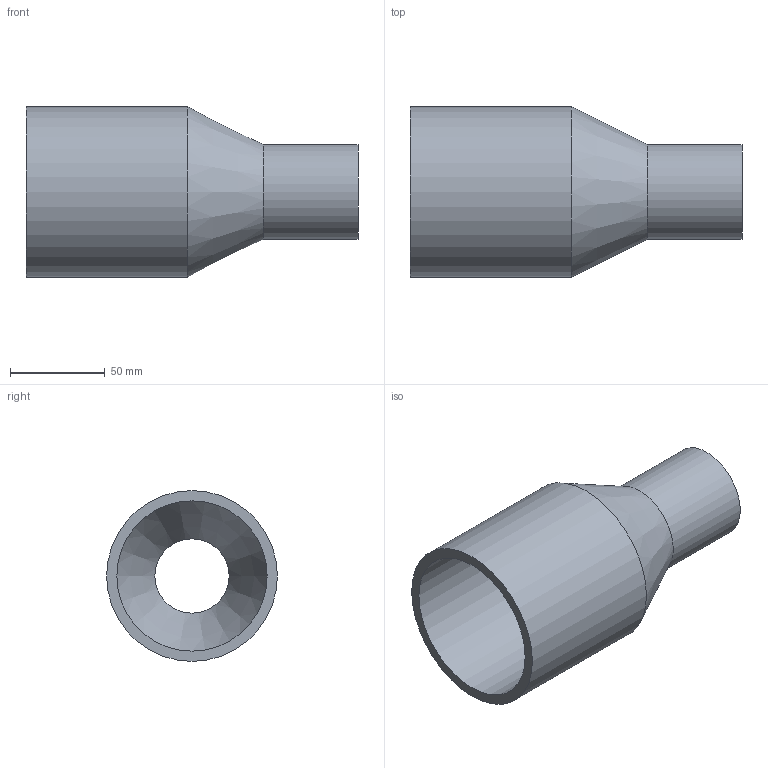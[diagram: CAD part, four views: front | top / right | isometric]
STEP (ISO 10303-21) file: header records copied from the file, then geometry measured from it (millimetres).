
FILE_DESCRIPTION(('Beschreibung'),'1');
FILE_NAME('V:/Ziel/25.91.03.063_SDR_17_PE100_090_050.STP', '2014-09-15T06:33:31',('Author'), ('Organization'), 'KCM Version 1.1.794.0', 'Kubotek KeyCreator', 'Authorization');
FILE_SCHEMA(('CONFIG_CONTROL_DESIGN'));
Length unit declared in the file: millimetre
Bounding box: 175 x 90 x 90 mm (x, y, z)
Volume: 208401.7 mm3; surface area: 79377.6 mm2
Topology: 1 solids, 1 shells, 8 faces, 22 edges, 24 vertices
Faces by surface type: cylinder 4, cone 2, plane 2
Full cylindrical faces by diameter (mm): 39.2 x1, 50 x1, 79.2 x1, 90 x1
Entity records: 321 total; most frequent: DIRECTION 48, CARTESIAN_POINT 39, ORIENTED_EDGE 28, AXIS2_PLACEMENT_3D 17, EDGE_CURVE 14, VECTOR 14, LINE 14, EDGE_LOOP 10
